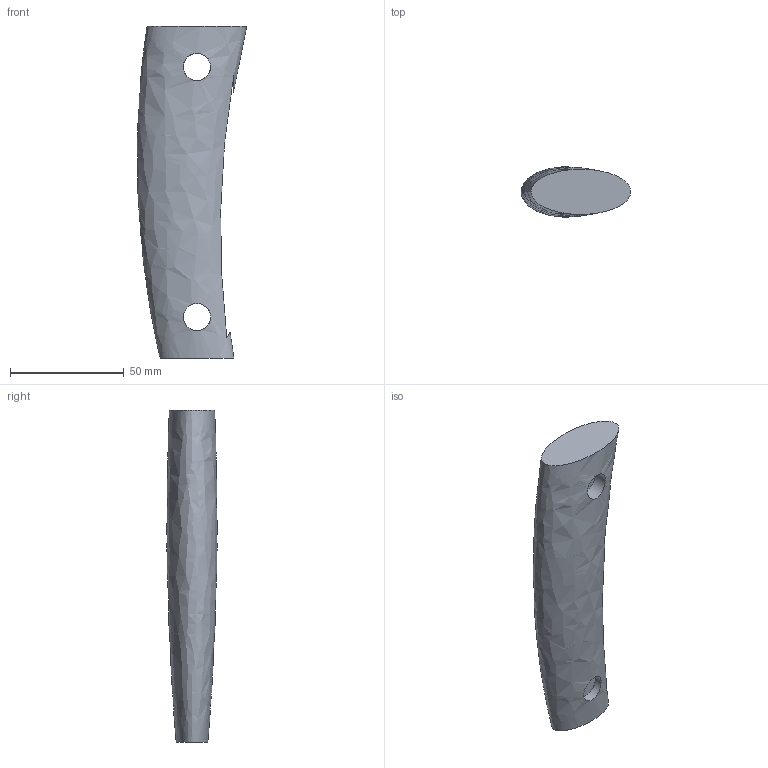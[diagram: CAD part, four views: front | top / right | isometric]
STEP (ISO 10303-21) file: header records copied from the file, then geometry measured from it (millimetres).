
FILE_DESCRIPTION(('Open CASCADE Model'),'2;1');
FILE_NAME('Q4-203','2026-10-08T13:25:59',('Author'),('Open CASCADE'), 'Open CASCADE STEP processor 8.0','build123d','Unknown');
FILE_SCHEMA(('AUTOMOTIVE_DESIGN { 1 0 10303 214 1 1 1 1 }'));
Length unit declared in the file: millimetre
Products named in the file (1): Q4-203
Bounding box: 48.14 x 22.12 x 146 mm (x, y, z)
Volume: 57604.8 mm3; surface area: 22986.9 mm2
Topology: 1 solids, 1 shells, 13 faces, 33 edges, 22 vertices
Faces by surface type: cylinder 6, plane 6, bspline 1
Full cylindrical faces by diameter (mm): 12 x4
Entity records: 2500 total; most frequent: CARTESIAN_POINT 1860, DIRECTION 97, ORIENTED_EDGE 66, PCURVE 66, DEFINITIONAL_REPRESENTATION 66, LINE 47, VECTOR 47, B_SPLINE_CURVE_WITH_KNOTS 36
